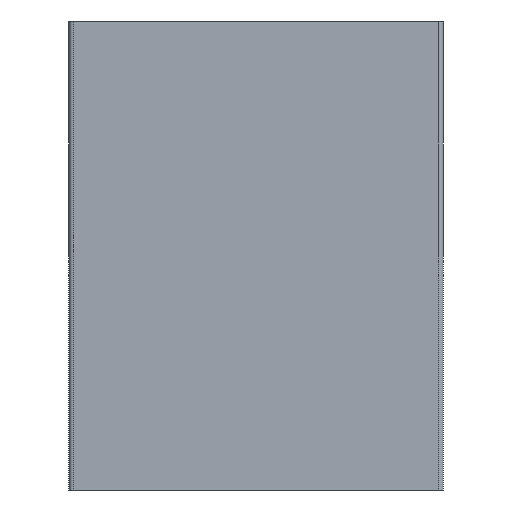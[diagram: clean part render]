
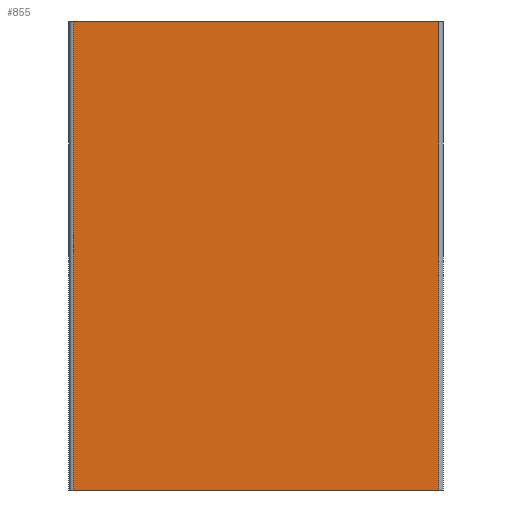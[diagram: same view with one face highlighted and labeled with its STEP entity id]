
A CAD part, left-side view. The second image highlights one B-rep face of the part: STEP entity #855.
In plain terms, the highlighted planar face has unit normal (-1, 0, 0).
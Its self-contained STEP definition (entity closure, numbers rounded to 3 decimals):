
#128 = CARTESIAN_POINT ( 'NONE',  ( -153.2, 39.5, 50. ) ) ;
#179 = LINE ( 'NONE', #180, #181 ) ;
#180 = CARTESIAN_POINT ( 'NONE',  ( -153.2, 39.5, 50. ) ) ;
#181 = VECTOR ( 'NONE', #182, 1000. ) ;
#182 = DIRECTION ( 'NONE',  ( 0., 0., -1. ) ) ;
#835 = EDGE_LOOP ( 'NONE', ( #2488, #3146, #1334, #891 ) ) ;
#855 = ADVANCED_FACE ( 'NONE', ( #4311 ), #4312, .F. ) ;
#891 = ORIENTED_EDGE ( 'NONE', *, *, #2690, .T. ) ;
#1189 = VERTEX_POINT ( 'NONE', #3462 ) ;
#1299 = EDGE_CURVE ( 'NONE', #2676, #4686, #4255, .T. ) ;
#1334 = ORIENTED_EDGE ( 'NONE', *, *, #1299, .F. ) ;
#2447 = EDGE_CURVE ( 'NONE', #1189, #3645, #4465, .T. ) ;
#2488 = ORIENTED_EDGE ( 'NONE', *, *, #2447, .T. ) ;
#2676 = VERTEX_POINT ( 'NONE', #128 ) ;
#2690 = EDGE_CURVE ( 'NONE', #2676, #1189, #179, .T. ) ;
#3146 = ORIENTED_EDGE ( 'NONE', *, *, #4831, .F. ) ;
#3462 = CARTESIAN_POINT ( 'NONE',  ( -153.2, 39.5, 0. ) ) ;
#3645 = VERTEX_POINT ( 'NONE', #3856 ) ;
#3856 = CARTESIAN_POINT ( 'NONE',  ( -153.2, 0.5, 0. ) ) ;
#4255 = LINE ( 'NONE', #4256, #4257 ) ;
#4256 = CARTESIAN_POINT ( 'NONE',  ( -153.2, 0.5, 50. ) ) ;
#4257 = VECTOR ( 'NONE', #4258, 1000. ) ;
#4258 = DIRECTION ( 'NONE',  ( 0., -1., 0. ) ) ;
#4311 = FACE_OUTER_BOUND ( 'NONE', #835, .T. ) ;
#4312 = PLANE ( 'NONE',  #4314 ) ;
#4314 = AXIS2_PLACEMENT_3D ( 'NONE', #4315, #4316, #4317 ) ;
#4315 = CARTESIAN_POINT ( 'NONE',  ( -153.2, 0.5, 50. ) ) ;
#4316 = DIRECTION ( 'NONE',  ( 1., 0., 0. ) ) ;
#4317 = DIRECTION ( 'NONE',  ( 0., 0., -1. ) ) ;
#4465 = LINE ( 'NONE', #4466, #4467 ) ;
#4466 = CARTESIAN_POINT ( 'NONE',  ( -153.2, 0.5, 0. ) ) ;
#4467 = VECTOR ( 'NONE', #4468, 1000. ) ;
#4468 = DIRECTION ( 'NONE',  ( 0., -1., 0. ) ) ;
#4602 = CARTESIAN_POINT ( 'NONE',  ( -153.2, 0.5, 50. ) ) ;
#4686 = VERTEX_POINT ( 'NONE', #4602 ) ;
#4719 = LINE ( 'NONE', #4720, #4723 ) ;
#4720 = CARTESIAN_POINT ( 'NONE',  ( -153.2, 0.5, 50. ) ) ;
#4723 = VECTOR ( 'NONE', #4724, 1000. ) ;
#4724 = DIRECTION ( 'NONE',  ( 0., 0., -1. ) ) ;
#4831 = EDGE_CURVE ( 'NONE', #4686, #3645, #4719, .T. ) ;
